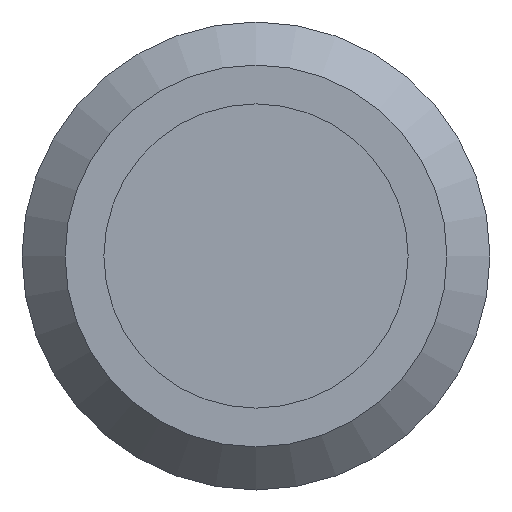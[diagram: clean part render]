
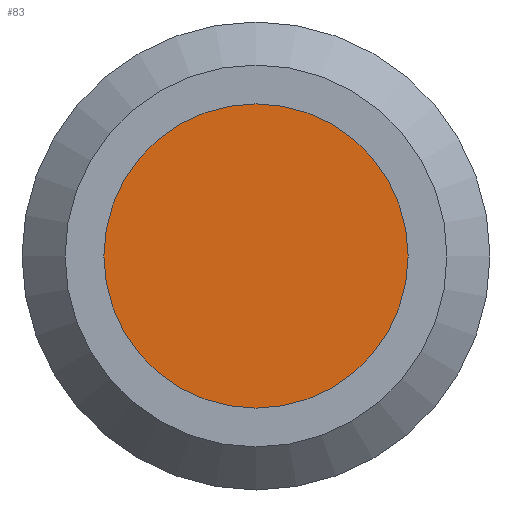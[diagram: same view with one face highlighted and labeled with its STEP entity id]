
A CAD part, front view. The second image highlights one B-rep face of the part: STEP entity #83.
In plain terms, the highlighted planar face has unit normal (0, -1, 0).
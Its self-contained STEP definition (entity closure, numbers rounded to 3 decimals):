
#83 = ADVANCED_FACE( '', ( #107 ), #108, .F. );
#107 = FACE_OUTER_BOUND( '', #141, .T. );
#108 = PLANE( '', #142 );
#141 = EDGE_LOOP( '', ( #219 ) );
#142 = AXIS2_PLACEMENT_3D( '', #220, #221, #222 );
#219 = ORIENTED_EDGE( '', *, *, #267, .T. );
#220 = CARTESIAN_POINT( '', ( 3.25, 0., 0. ) );
#221 = DIRECTION( '', ( 0., 1., 0. ) );
#222 = DIRECTION( '', ( 0., 0., 1. ) );
#267 = EDGE_CURVE( '', #304, #304, #305, .T. );
#304 = VERTEX_POINT( '', #364 );
#305 = CIRCLE( '', #365, 3.25 );
#364 = CARTESIAN_POINT( '', ( 0., 0., -3.25 ) );
#365 = AXIS2_PLACEMENT_3D( '', #395, #396, #397 );
#395 = CARTESIAN_POINT( '', ( 0., 0., 0. ) );
#396 = DIRECTION( '', ( 0., -1., 0. ) );
#397 = DIRECTION( '', ( 0., 0., -1. ) );
